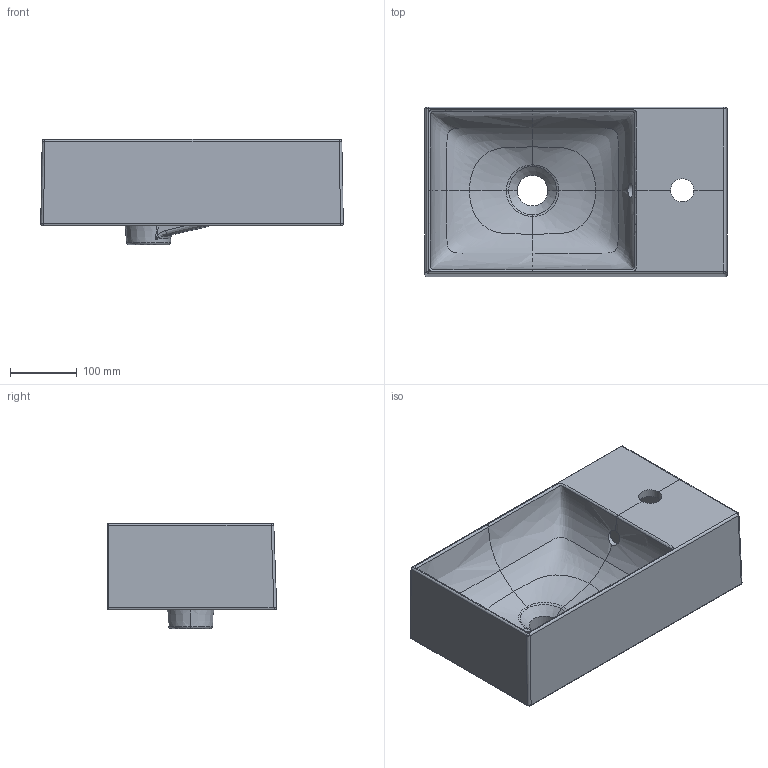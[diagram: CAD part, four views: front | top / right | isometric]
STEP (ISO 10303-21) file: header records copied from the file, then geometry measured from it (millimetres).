
FILE_DESCRIPTION(/* description */ (''),/* implementation_level */ '2;1');
FILE_NAME(/* name */ 'LAVABO_45x25_PROTAP_01_20200928.stp',/* time_stamp */ '2020-10-08T13:30:00+02:00',/* author */ (''),/* organization */ (''),/* preprocessor_version */ 'ST-DEVELOPER v16.7',/* originating_system */ 'SIEMENS PLM Software NX 12.0',/* authorisation */ '');
FILE_SCHEMA (('AUTOMOTIVE_DESIGN { 1 0 10303 214 3 1 1 1 }'));
Length unit declared in the file: millimetre
Products named in the file (1): Bera5A889F5Dvfk0
Bounding box: 454.32 x 254.32 x 158.02 mm (x, y, z)
Volume: 6037976.3 mm3; surface area: 559029.9 mm2
Topology: 1 solids, 1 shells, 328 faces, 799 edges, 480 vertices
Faces by surface type: bspline 237, cylinder 52, plane 24, cone 6, sphere 5, torus 4
Full cylindrical faces by diameter (mm): 10 x4, 22 x1, 35 x1
Entity records: 34124 total; most frequent: CARTESIAN_POINT 28241, ORIENTED_EDGE 1570, EDGE_CURVE 785, DIRECTION 621, B_SPLINE_CURVE_WITH_KNOTS 515, VERTEX_POINT 479, EDGE_LOOP 352, ADVANCED_FACE 328
